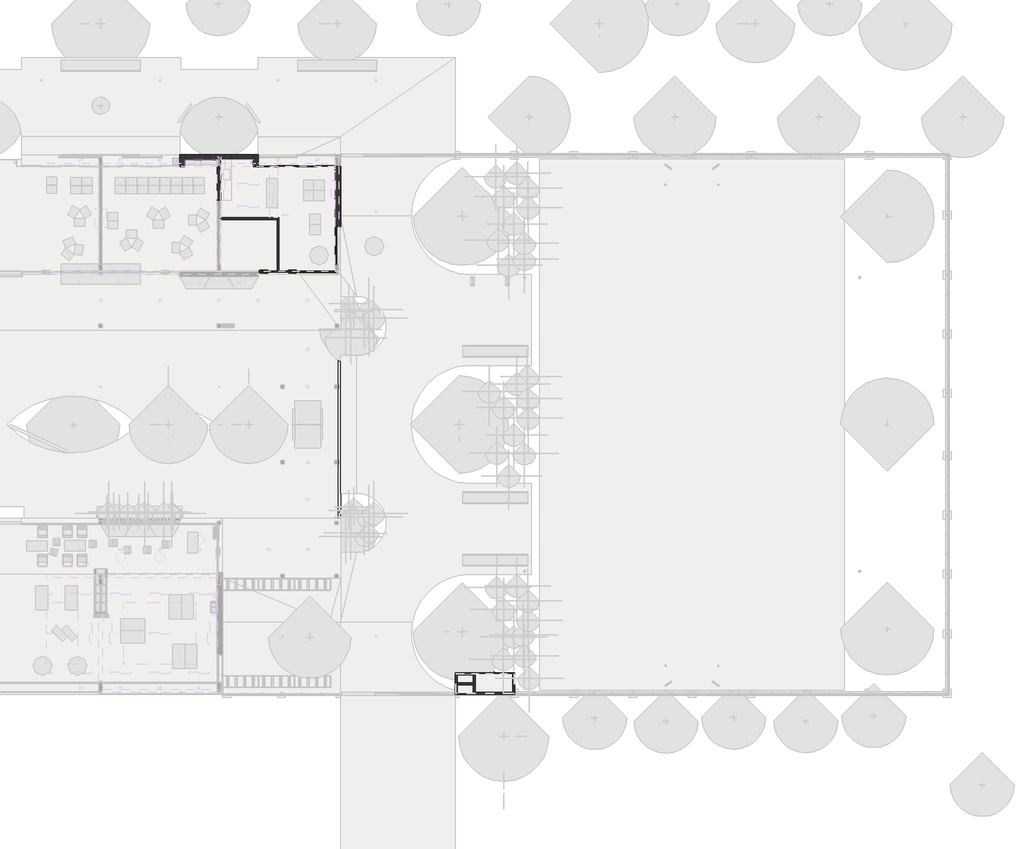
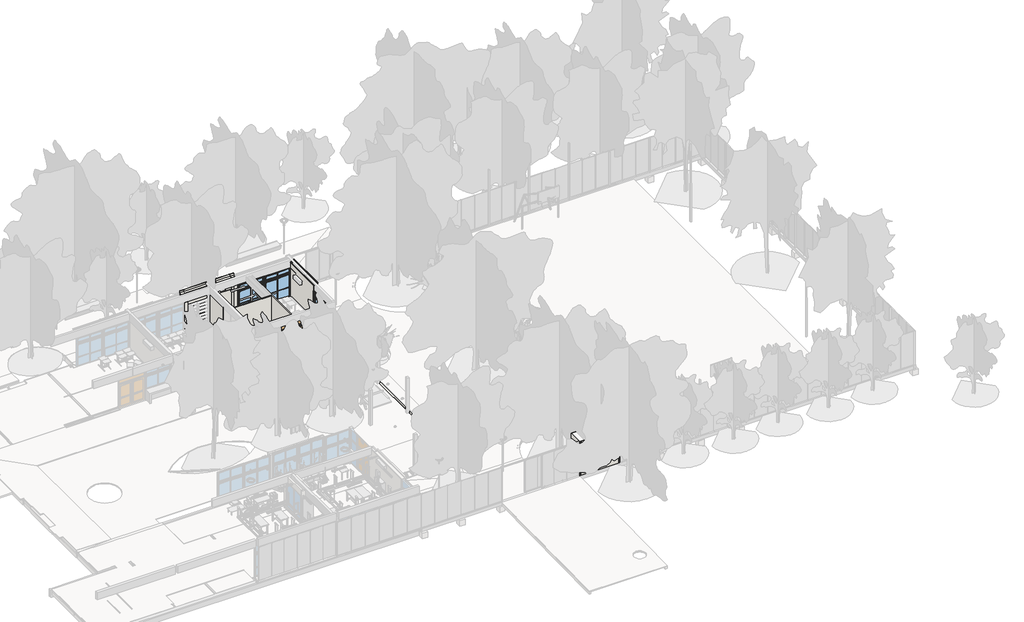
# One storey, part 6 of 22: 23 walls, 8 windows, 4 proxies, 2 doors.
"""IFC4 building model written with IfcOpenShell, lengths in millimetres."""

from ifc_helpers import new_model, si_unit, point, frame, frame_2d, origin, place, context, project, spatial, polyline, circle_curve, ellipse_curve, trimmed, segment, composite_curve, outline, extrude, faceted_brep, transform, mapped, element, save
from ifc_brep_helpers import plane_surface, cylinder_surface, revolved_surface, advanced_brep
from components import door_cf841cee, door_9383518e, window_d906ba14, window_8c95d47d, window_3a15e468, window_4325c9d2, window_8b68bda0, window_c2d00e38, window_77fab793, window_3585451b

model = new_model("IFC4")

# Units and contexts
model_context = context("Model", 3, world=origin())
ifc_project = project(units=[si_unit("LENGTHUNIT", "METRE", prefix="MILLI")], contexts=[model_context])

# Site, building, storey
site = spatial("IfcSite", under=ifc_project)
building = spatial("IfcBuilding", under=site)
storey = spatial("IfcBuildingStorey", under=building, Name="PLanta baja", Elevation=0.0)

# Proxies
placement = place(None, origin())
element("IfcBuildingElementProxy", 1, Name="23-TEL-JUNTA 10x10", ObjectType="23-TEL-JUNTA 10x10", at=placement, inside=storey, context=model_context, shape_type="SweptSolid", body=[
    extrude(outline(polyline([(37673.7173693, 31020.2304035), (37683.7173693, 31020.2304035), (37683.7173693, 27520.2304035), (37673.7173693, 27520.2304035), (37673.7173693, 31020.2304035)])), frame((0.0, 0.0, 3090.0), z_axis=(0.0, 0.0, 1.0), x_axis=(1.0, 0.0, 0.0)), (0.0, 0.0, 1.0), 10.0),
])
element("IfcBuildingElementProxy", 2, Name="23-TEL-JUNTA 10x10", ObjectType="23-TEL-JUNTA 10x10", at=placement, inside=storey, context=model_context, shape_type="SweptSolid", body=[
    extrude(outline(polyline([(32878.7173693, 31220.2288236), (32888.7173693, 31220.2288236), (32888.7173693, 31020.2272437), (32878.7173693, 31020.2272437), (32878.7173693, 31220.2288236)])), frame((0.0, 0.0, 2590.0), z_axis=(0.0, 0.0, 1.0), x_axis=(1.0, 0.0, 0.0)), (0.0, 0.0, 1.0), 10.0),
])
element("IfcBuildingElementProxy", 3, Name="23-TEL-JUNTA 10x10", ObjectType="23-TEL-JUNTA 10x10", at=placement, inside=storey, context=model_context, shape_type="SweptSolid", body=[
    extrude(outline(polyline([(32878.7173693, 31420.2304035), (32888.7173693, 31430.2304035), (32888.7173693, 31220.2288236), (32878.7173693, 31220.2288236), (32878.7173693, 31420.2304035)])), frame((0.0, 0.0, 3090.0), z_axis=(0.0, 0.0, 1.0), x_axis=(1.0, 0.0, 0.0)), (0.0, 0.0, 1.0), 10.0),
    extrude(outline(polyline([(30993.7173693, 31420.2304035), (30993.7173693, 31430.2304035), (31613.7173693, 31430.2304035), (31613.7173693, 31420.2304035), (30993.7173693, 31420.2304035)])), frame((0.0, 0.0, 3090.0), z_axis=(0.0, 0.0, 1.0), x_axis=(1.0, 0.0, 0.0)), (0.0, 0.0, 1.0), 10.0),
    extrude(outline(polyline([(28888.7173693, 31430.2304035), (28878.7173693, 31440.2304035), (30993.7173693, 31440.2304035), (30993.7173693, 31430.2304035), (28888.7173693, 31430.2304035)])), frame((0.0, 0.0, 3090.0), z_axis=(0.0, 0.0, 1.0), x_axis=(1.0, 0.0, 0.0)), (0.0, 0.0, 1.0), 10.0),
    extrude(outline(polyline([(28888.7173693, 31220.2304035), (28878.7173693, 31220.2304035), (28878.7173693, 31440.2304035), (28888.7173693, 31430.2304035), (28888.7173693, 31220.2304035)])), frame((0.0, 0.0, 3090.0), z_axis=(0.0, 0.0, 1.0), x_axis=(1.0, 0.0, 0.0)), (0.0, 0.0, 1.0), 10.0),
    extrude(outline(polyline([(31613.7173693, 31420.2304035), (31613.7173693, 31430.2304035), (32888.7173693, 31430.2304035), (32878.7173693, 31420.2304035), (31613.7173693, 31420.2304035)])), frame((0.0, 0.0, 3090.0), z_axis=(0.0, 0.0, 1.0), x_axis=(1.0, 0.0, 0.0)), (0.0, 0.0, 1.0), 10.0),
])
element("IfcBuildingElementProxy", 4, Name="23-TEL-JUNTA 10x10", ObjectType="23-TEL-JUNTA 10x10", at=placement, inside=storey, context=model_context, shape_type="SweptSolid", body=[
    extrude(outline(polyline([(28888.7173693, 31020.2272437), (28878.7173693, 31020.2272437), (28878.7173693, 31220.2304035), (28888.7173693, 31220.2304035), (28888.7173693, 31020.2272437)])), frame((0.0, 0.0, 2590.0), z_axis=(0.0, 0.0, 1.0), x_axis=(1.0, 0.0, 0.0)), (0.0, 0.0, 1.0), 10.0),
])

# Doors
door_shape = door_cf841cee(model_context)
element("IfcDoor", 5, ObjectType="A3 Puerta batiente exterior VF superior : A3.1 Puerta batiente simple-exterior 110X260", at=placement, inside=storey, context=model_context, shape_type="MappedRepresentation", body=[
    mapped(door_shape, transform((33738.7173693, 24887.2304035, 0.0), x_axis=(-1.0, 0.0, 0.0), y_axis=(0.0, -1.0, 0.0), z_axis=(0.0, 0.0, 1.0))),
])
door_2_shape = door_9383518e(model_context)
element("IfcDoor", 6, ObjectType="A3 Puerta batiente exterior VF superior : A3.1 Puerta batiente simple-exterior 110X260", at=placement, inside=storey, context=model_context, shape_type="MappedRepresentation", body=[
    mapped(door_2_shape, transform((34938.7173693, 24887.2304035, 0.0), x_axis=(1.0, 0.0, 0.0), y_axis=(0.0, 1.0, 0.0), z_axis=(0.0, 0.0, 1.0))),
])

# Walls
element("IfcWall", 7, ObjectType="TABI-INT/INT-M30b-20cm-PET", at=placement, inside=storey, context=model_context, shape_type="Brep", body=[
    faceted_brep([(30803.7173693, 29050.2304035, 2600.0), (30803.7173693, 31020.2304035, 2600.0), (30803.7173693, 31020.2304035, 0.0), (30803.7173693, 29050.2304035, 0.0), (31003.7173693, 31440.2304035, 900.0), (31003.7173693, 31440.2304035, 3100.0), (31003.7173693, 31220.2304035, 3100.0), (31003.7173693, 31220.2304035, 2600.0), (31003.7173693, 31020.2304035, 2600.0), (31003.7173693, 31020.2304035, 3100.0), (31003.7173693, 29050.2304035, 3100.0), (31003.7173693, 29050.2304035, 2103.3), (31003.7173693, 31419.731002, 2103.3), (31003.7173693, 31419.731002, 2100.0), (31003.7173693, 29050.2304035, 2100.0), (31003.7173693, 29050.2304035, 900.0), (30988.7173693, 29050.2304035, 0.0), (30988.7173693, 29050.2304035, 900.0), (30994.2173693, 29050.2304035, 2100.0), (30994.2173693, 29050.2304035, 2103.3), (30988.7173693, 29050.2304035, 3100.0), (30988.7173693, 29050.2304035, 2600.0), (30993.7173693, 31440.2304035, 3100.0), (30988.7173693, 31440.2304035, 3100.0), (30988.7173693, 31220.2304035, 3100.0), (30988.7173693, 31020.2304035, 3100.0), (30993.7173693, 31440.2304035, 900.0), (30988.7173693, 31440.2304035, 900.0), (30988.7173693, 31020.2304035, 2600.0), (30988.7173693, 31020.2304035, 900.0), (30988.7173693, 31020.2304035, 0.0), (30976.0173694, 31020.2304035, 2600.0), (30988.7173693, 31220.2304035, 2600.0), (30988.7173693, 31430.2304035, 900.0), (30994.2173693, 31419.731002, 2103.3), (30994.2173693, 31419.731002, 2100.0)], [[[0, 1, 2, 3]], [[4, 5, 6, 7, 8, 9, 10, 11, 12, 13, 14, 15]], [[3, 16, 17, 15, 14, 18, 19, 11, 10, 20, 21, 0]], [[5, 22, 23, 24, 6]], [[20, 10, 9, 25]], [[5, 4, 26, 27, 23, 22]], [[28, 29, 30, 2, 1, 31]], [[29, 28, 32, 24, 23, 27, 33]], [[28, 21, 20, 25]], [[1, 0, 21, 28, 31]], [[13, 12, 34, 35]], [[13, 35, 18, 14]], [[35, 34, 19, 18]], [[34, 12, 11, 19]], [[3, 2, 30, 16]], [[17, 16, 30, 29]], [[27, 26, 4, 15, 17, 29, 33]], [[8, 28, 25, 9]], [[28, 8, 7, 32]], [[32, 7, 6, 24]]]),
])
element("IfcWall", 8, ObjectType="TABI-INT/INT-M30-10cm-PET", at=placement, inside=storey, context=model_context, shape_type="Brep", body=[
    faceted_brep([(34288.7173693, 28040.2304035, 0.0), (34288.7173693, 27940.2304035, 0.0), (34288.7173693, 24921.8622631, 0.0), (34288.7173693, 24921.8622631, 3100.0), (34288.7173693, 27940.2304035, 3100.0), (34288.7173693, 28040.2304035, 3100.0), (34288.7173693, 28040.2304035, 50.0), (34388.7173693, 24921.8622631, 0.0), (34388.7173693, 28040.2304035, 0.0), (34388.7173693, 28040.2304035, 50.0), (34388.7173693, 28040.2304035, 3100.0), (34388.7173693, 24921.8622631, 3100.0), (34388.7173693, 24921.8622631, 50.0)], [[[0, 1, 2, 3, 4, 5, 6]], [[7, 8, 9, 10, 11, 12]], [[2, 1, 0, 8, 7]], [[3, 2, 7, 12, 11]], [[5, 4, 3, 11, 10]], [[8, 0, 6, 5, 10, 9]]]),
])
element("IfcWall", 9, ObjectType="TABI-INT/INT-M30-10cm-PET", at=placement, inside=storey, context=model_context, shape_type="Brep", body=[
    faceted_brep([(34288.7173693, 28040.2304035, 0.0), (31003.7173693, 28040.2304035, 0.0), (31003.7173693, 28040.2304035, 50.0), (31003.7173693, 28040.2304035, 2100.0), (31003.7173693, 28040.2304035, 2103.3), (31003.7173693, 28040.2304035, 3100.0), (34288.7173693, 28040.2304035, 3100.0), (34288.7173693, 28040.2304035, 50.0), (31003.7173693, 27940.2304035, 0.0), (34288.7173693, 27940.2304035, 0.0), (34288.7173693, 27940.2304035, 3100.0), (31003.7173693, 27940.2304035, 3100.0)], [[[0, 1, 2, 3, 4, 5, 6, 7]], [[8, 9, 10, 11]], [[1, 0, 9, 8]], [[6, 5, 11, 10]], [[10, 9, 0, 7, 6]], [[1, 8, 11, 5, 4, 3, 2]]]),
])
element("IfcWall", 10, ObjectType="MURO-EXT/NICHOS-M1-11cm-PET", at=placement, inside=storey, context=model_context, shape_type="Brep", body=[
    faceted_brep([(44798.7173693, 210.2304035, -50.0), (44798.7173693, 310.2304035, -50.0), (44798.7173693, 1468.5637368, -50.0), (44798.7173693, 1468.5637368, 1120.0), (44798.7173693, 1358.5637368, 1120.0), (44798.7173693, 1358.5637368, 1970.0), (44798.7173693, 1468.5637368, 1970.0), (44798.7173693, 1468.5637368, 3050.0), (44798.7173693, 1448.5637368, 3050.0), (44798.7173693, 1448.5637368, 3030.0), (44798.7173693, 1408.5637368, 3030.0), (44798.7173693, 1408.5637368, 2930.0), (44798.7173693, 1358.5637368, 2930.0), (44798.7173693, 889.3970702, 2930.0), (44798.7173693, 779.3970702, 2930.0), (44798.7173693, 320.2304035, 2930.0), (44798.7173693, 270.2304035, 2930.0), (44798.7173693, 270.2304035, 3030.0), (44798.7173693, 230.2304035, 3030.0), (44798.7173693, 230.2304035, 3050.0), (44798.7173693, 210.2304035, 3050.0), (44798.7173693, 210.2304035, 1880.0), (44798.7173693, 320.2304035, 1880.0), (44798.7173693, 320.2304035, 1030.0), (44798.7173693, 779.3970702, 1030.0), (44798.7173693, 834.3970702, 1030.0), (44798.7173693, 834.3970702, 930.0), (44798.7173693, 779.3970702, 930.0), (44798.7173693, 320.2304035, 930.0), (44798.7173693, 320.2304035, 305.0), (44798.7173693, 210.2304035, 305.0), (44798.7173693, 244.2304035, 930.0), (44798.7173693, 244.2304035, 1030.0), (44798.7173693, 210.2304035, 1030.0), (44798.7173693, 210.2304035, 930.0), (44688.7173693, 1468.5637368, -50.0), (44688.7173693, 210.2304035, -50.0), (44688.7173693, 210.2304035, 3050.0), (44688.7173693, 1468.5637368, 3050.0), (44708.7173693, 230.2304035, 3050.0), (44708.7173693, 1448.5637368, 3050.0), (44788.7173693, 1468.5637368, 1970.0), (44788.7173693, 1468.5637368, 1120.0), (44788.7173693, 210.2304035, 305.0), (44788.7173693, 210.2304035, 930.0), (44788.7173693, 210.2304035, 1030.0), (44788.7173693, 210.2304035, 1880.0), (44743.7173693, 834.3970702, 930.0), (44743.7173693, 244.2304035, 930.0), (44788.7173693, 244.2304035, 930.0), (44788.7173693, 320.2304035, 930.0), (44743.7173693, 244.2304035, 1030.0), (44743.7173693, 834.3970702, 1030.0), (44788.7173693, 320.2304035, 1030.0), (44788.7173693, 244.2304035, 1030.0), (44748.7173693, 1408.5637368, 2930.0), (44748.7173693, 270.2304035, 2930.0), (44748.7173693, 270.2304035, 3030.0), (44748.7173693, 1408.5637368, 3030.0), (44708.7173693, 1448.5637368, 3030.0), (44708.7173693, 230.2304035, 3030.0), (44788.7173693, 320.2304035, 305.0), (44788.7173693, 320.2304035, 1880.0), (44788.7173693, 1358.5637368, 1120.0), (44788.7173693, 1358.5637368, 1970.0)], [[[0, 1, 2, 3, 4, 5, 6, 7, 8, 9, 10, 11, 12, 13, 14, 15, 16, 17, 18, 19, 20, 21, 22, 23, 24, 25, 26, 27, 28, 29, 30]], [[31, 32, 33, 34]], [[35, 36, 37, 38]], [[2, 1, 0, 36, 35]], [[38, 37, 20, 19, 39, 40, 8, 7]], [[2, 35, 38, 7, 6, 41, 42, 3]], [[20, 37, 36, 0, 30, 43, 44, 34, 33, 45, 46, 21]], [[47, 48, 49, 50, 28, 27, 26]], [[51, 52, 25, 24, 23, 53, 54]], [[48, 47, 52, 51]], [[52, 47, 26, 25]], [[48, 51, 54, 32, 31, 49]], [[55, 56, 16, 15, 14, 13, 12, 11]], [[56, 57, 17, 16]], [[56, 55, 58, 57]], [[58, 55, 11, 10]], [[59, 60, 18, 17, 57, 58, 10, 9]], [[18, 60, 39, 19]], [[60, 59, 40, 39]], [[59, 9, 8, 40]], [[50, 61, 29, 28]], [[34, 44, 49, 31]], [[61, 50, 49, 44, 43]], [[61, 43, 30, 29]], [[62, 53, 23, 22]], [[46, 62, 22, 21]], [[53, 62, 46, 45, 54]], [[45, 33, 32, 54]], [[63, 64, 5, 4]], [[64, 63, 42, 41]], [[64, 41, 6, 5]], [[42, 63, 4, 3]]]),
])
element("IfcWall", 11, ObjectType="MURO-EXT/NICHOS-M1-11cm-PET", at=placement, inside=storey, context=model_context, shape_type="Brep", body=[
    faceted_brep([(48138.7173693, 1358.5637368, 3050.0), (48028.7173693, 1358.5637368, 3050.0), (44798.7173693, 1358.5637368, 3050.0), (44798.7173693, 1358.5637368, 3030.0), (48078.7173693, 1358.5637368, 3030.0), (48078.7173693, 1358.5637368, 2930.0), (44798.7173693, 1358.5637368, 2930.0), (44798.7173693, 1358.5637368, 1970.0), (45738.7173693, 1358.5637368, 1970.0), (45738.7173693, 1358.5637368, 1120.0), (44798.7173693, 1358.5637368, 1120.0), (44798.7173693, 1358.5637368, 70.0), (45728.7173693, 1358.5637368, 70.0), (45838.7173693, 1358.5637368, 70.0), (45838.7173693, 1358.5637368, 1970.0), (48038.7173693, 1358.5637368, 1970.0), (48038.7173693, 1358.5637368, 70.0), (48058.7173693, 1358.5637368, 70.0), (48058.7173693, 1358.5637368, -53.9365478), (48138.7173693, 1358.5637368, -53.9365478), (48138.7173693, 1358.5637368, -50.0), (44798.7173693, 1468.5637368, 3050.0), (48138.7173693, 1468.5637368, 3050.0), (48138.7173693, 1468.5637368, -53.9365478), (48058.7173693, 1468.5637368, -53.9365478), (48058.7173693, 1468.5637368, 70.0), (48038.7173693, 1468.5637368, 70.0), (48038.7173693, 1468.5637368, 1970.0), (45838.7173693, 1468.5637368, 1970.0), (45838.7173693, 1468.5637368, 70.0), (45858.7173693, 1468.5637368, 70.0), (45858.7173693, 1468.5637368, -53.9365478), (44798.7173693, 1468.5637368, -53.9365478), (44798.7173693, 1468.5637368, -50.0), (44798.7173693, 1468.5637368, 1120.0), (45738.7173693, 1468.5637368, 1120.0), (45738.7173693, 1468.5637368, 1970.0), (44798.7173693, 1468.5637368, 1970.0), (48058.7173693, 1368.5637368, -53.9365478), (45858.7173693, 1368.5637368, -53.9365478), (44798.7173693, 1368.5637368, -53.9365478), (44798.7173693, 1448.5637368, 3050.0), (44798.7173693, 1408.5637368, 2930.0), (44798.7173693, 1408.5637368, 3030.0), (44798.7173693, 1368.5637368, 70.0), (45838.7173693, 1368.5637368, 70.0), (45858.7173693, 1368.5637368, 70.0), (48078.7173693, 1408.5637368, 2930.0), (48078.7173693, 1408.5637368, 3030.0), (48058.7173693, 1368.5637368, 70.0)], [[[0, 1, 2, 3, 4, 5, 6, 7, 8, 9, 10, 11, 12, 13, 14, 15, 16, 17, 18, 19, 20]], [[21, 22, 23, 24, 25, 26, 27, 28, 29, 30, 31, 32, 33, 34, 35, 36, 37]], [[23, 19, 18, 38, 24]], [[32, 31, 39, 40]], [[2, 1, 0, 22, 21, 41]], [[2, 41, 21, 37, 7, 6, 42, 43, 3]], [[34, 33, 32, 40, 44, 11, 10]], [[0, 20, 19, 23, 22]], [[28, 14, 13, 45, 29]], [[14, 28, 27, 15]], [[15, 27, 26, 16]], [[30, 29, 45, 46]], [[36, 8, 7, 37]], [[8, 36, 35, 9]], [[9, 35, 34, 10]], [[47, 42, 6, 5]], [[48, 4, 3, 43]], [[48, 47, 5, 4]], [[47, 48, 43, 42]], [[44, 45, 13, 12, 11]], [[25, 49, 17, 16, 26]], [[17, 49, 38, 18]], [[45, 44, 40, 39, 46]], [[46, 39, 31, 30]], [[49, 25, 24, 38]]]),
])
element("IfcWall", 12, ObjectType="MURO-EXT/NICHOS-M1-11cm-PET", at=placement, inside=storey, context=model_context, shape_type="Brep", body=[
    faceted_brep([(48028.7173693, 1358.5637368, -50.0), (48028.7173693, 310.2304035, -50.0), (48028.7173693, 210.2304035, -50.0), (48028.7173693, 210.2304035, 3050.0), (48028.7173693, 230.2304035, 3050.0), (48028.7173693, 230.2304035, 3030.0), (48028.7173693, 270.2304035, 3030.0), (48028.7173693, 270.2304035, 2930.0), (48028.7173693, 320.2304035, 2930.0), (48028.7173693, 1358.5637368, 2930.0), (48138.7173693, 210.2304035, -50.0), (48138.7173693, 1358.5637368, -50.0), (48138.7173693, 1358.5637368, 3030.0), (48138.7173693, 230.2304035, 3030.0), (48138.7173693, 230.2304035, 3050.0), (48138.7173693, 210.2304035, 3050.0), (48078.7173693, 1358.5637368, 2930.0), (48078.7173693, 1358.5637368, 3030.0), (48078.7173693, 270.2304035, 2930.0), (48078.7173693, 270.2304035, 3030.0)], [[[0, 1, 2, 3, 4, 5, 6, 7, 8, 9]], [[10, 11, 12, 13, 14, 15]], [[2, 1, 0, 11, 10]], [[3, 15, 14, 4]], [[11, 0, 9, 16, 17, 12]], [[3, 2, 10, 15]], [[7, 18, 16, 9, 8]], [[18, 19, 17, 16]], [[19, 18, 7, 6]], [[5, 13, 12, 17, 19, 6]], [[13, 5, 4, 14]]]),
])
element("IfcWall", 13, ObjectType="MURO-EXT/NICHOS-M1-11cm-PET", at=placement, inside=storey, context=model_context, shape_type="Brep", body=[
    faceted_brep([(45738.7173693, 320.2304035, 930.0), (45783.7173693, 320.2304035, 930.0), (45783.7173693, 320.2304035, 1030.0), (45738.7173693, 320.2304035, 1030.0), (45738.7173693, 320.2304035, 1880.0), (44798.7173693, 320.2304035, 1880.0), (44798.7173693, 320.2304035, 2930.0), (48028.7173693, 320.2304035, 2930.0), (48028.7173693, 320.2304035, 70.0), (45838.7173693, 320.2304035, 70.0), (45728.7173693, 320.2304035, 70.0), (44798.7173693, 320.2304035, 70.0), (44798.7173693, 320.2304035, 305.0), (45738.7173693, 320.2304035, 305.0), (44798.7173693, 210.2304035, -50.0), (48028.7173693, 210.2304035, -50.0), (48028.7173693, 210.2304035, 3050.0), (44798.7173693, 210.2304035, 3050.0), (44798.7173693, 210.2304035, 1880.0), (45738.7173693, 210.2304035, 1880.0), (45738.7173693, 210.2304035, 1030.0), (45738.7173693, 210.2304035, 930.0), (45738.7173693, 210.2304035, 305.0), (44798.7173693, 210.2304035, 305.0), (44798.7173693, 310.2304035, -50.0), (48028.7173693, 310.2304035, -50.0), (48028.7173693, 230.2304035, 3050.0), (44798.7173693, 230.2304035, 3050.0), (48028.7173693, 310.2304035, 70.0), (48028.7173693, 270.2304035, 2930.0), (48028.7173693, 270.2304035, 3030.0), (48028.7173693, 230.2304035, 3030.0), (44798.7173693, 310.2304035, 70.0), (44798.7173693, 230.2304035, 3030.0), (44798.7173693, 270.2304035, 3030.0), (44798.7173693, 270.2304035, 2930.0), (45738.7173693, 244.2304035, 930.0), (45783.7173693, 244.2304035, 930.0), (45783.7173693, 244.2304035, 1030.0), (45738.7173693, 244.2304035, 1030.0)], [[[0, 1, 2, 3, 4, 5, 6, 7, 8, 9, 10, 11, 12, 13]], [[14, 15, 16, 17, 18, 19, 20, 21, 22, 23]], [[15, 14, 24, 25]], [[17, 16, 26, 27]], [[16, 15, 25, 28, 8, 7, 29, 30, 31, 26]], [[14, 23, 12, 11, 32, 24]], [[18, 17, 27, 33, 34, 35, 6, 5]], [[36, 37, 1, 0]], [[38, 39, 3, 2]], [[37, 38, 2, 1]], [[37, 36, 39, 38]], [[39, 36, 0, 13, 22, 21, 20, 19, 4, 3]], [[22, 13, 12, 23]], [[4, 19, 18, 5]], [[35, 29, 7, 6]], [[29, 35, 34, 30]], [[28, 32, 11, 10, 9, 8]], [[32, 28, 25, 24]], [[33, 31, 30, 34]], [[31, 33, 27, 26]]]),
])
element("IfcWall", 14, ObjectType="MURO-EXT/NICHOS-M1-11cm-PET", at=placement, inside=storey, context=model_context, shape_type="Brep", body=[
    faceted_brep([(45728.7173693, 320.2304035, 2950.0), (45728.7173693, 1358.5637368, 2950.0), (45728.7173693, 1358.5637368, 70.0), (45728.7173693, 889.3970702, 70.0), (45728.7173693, 779.3970702, 70.0), (45728.7173693, 320.2304035, 70.0), (45728.7173693, 320.2304035, 930.0), (45728.7173693, 779.3970702, 930.0), (45728.7173693, 834.3970702, 930.0), (45728.7173693, 834.3970702, 1030.0), (45728.7173693, 779.3970702, 1030.0), (45728.7173693, 320.2304035, 1030.0), (45838.7173693, 1358.5637368, 2950.0), (45838.7173693, 320.2304035, 2950.0), (45838.7173693, 320.2304035, 70.0), (45838.7173693, 1358.5637368, 70.0), (45838.7173693, 1358.5637368, 1970.0), (45738.7173693, 320.2304035, 1030.0), (45783.7173693, 320.2304035, 1030.0), (45783.7173693, 320.2304035, 930.0), (45738.7173693, 320.2304035, 930.0), (45783.7173693, 834.3970702, 930.0), (45783.7173693, 834.3970702, 1030.0)], [[[0, 1, 2, 3, 4, 5, 6, 7, 8, 9, 10, 11]], [[12, 13, 14, 15, 16]], [[1, 0, 13, 12]], [[1, 12, 16, 15, 2]], [[13, 0, 11, 17, 18, 19, 20, 6, 5, 14]], [[21, 8, 7, 6, 20, 19]], [[22, 18, 17, 11, 10, 9]], [[22, 21, 19, 18]], [[21, 22, 9, 8]], [[5, 4, 3, 2, 15, 14]]]),
])
element("IfcWall", 15, ObjectType="MURO-EXT/NICHOS-M1-11cm-PET", at=placement, inside=storey, context=model_context, shape_type="SweptSolid", body=[
    extrude(outline(polyline([(779.3970702, 2930.0), (889.3970702, 2930.0), (889.3970702, 70.0), (779.3970702, 70.0), (779.3970702, 930.0), (834.3970702, 930.0), (834.3970702, 1030.0), (779.3970702, 1030.0), (779.3970702, 2930.0)])), frame((44798.7173693, 0.0, 0.0), z_axis=(1.0, 0.0, 0.0), x_axis=(0.0, 1.0, 0.0)), (0.0, 0.0, 1.0), 930.0),
])
element("IfcWall", 16, ObjectType="MURO-INT/INT-M22b-11.5cm-hceram210cm-PET", at=placement, inside=storey, context=model_context, shape_type="Brep", body=[
    faceted_brep([(31494.7173693, 31420.2304035, -50.0), (31494.7173693, 31130.2304035, -50.0), (31494.7173693, 31020.2304035, -50.0), (31494.7173693, 31020.2304035, 828.0), (31494.7173693, 31420.2304035, 828.0), (31609.7173693, 31420.2304035, -50.0), (31609.7173693, 31420.2304035, 828.0), (31609.7173693, 31020.2304035, 828.0), (31609.7173693, 31020.2304035, -50.0)], [[[0, 1, 2, 3, 4]], [[5, 6, 7, 8]], [[2, 1, 0, 5, 8]], [[4, 3, 7, 6]], [[3, 2, 8, 7]], [[0, 4, 6, 5]]]),
])
element("IfcWall", 17, ObjectType="MURO-EXT/INT-M1c-31cm-hceram210cm-PET", at=placement, inside=storey, context=model_context, shape_type="Brep", body=[
    faceted_brep([(31613.7173693, 31420.2304035, 3090.0), (30993.7173693, 31420.2304035, 3090.0), (30993.7173693, 31420.2304035, 900.0), (31613.7173693, 31420.2304035, 900.0), (31613.7173693, 31420.2304035, 2100.0), (30994.2964246, 31420.2304035, 2100.0), (30994.2964246, 31420.2304035, 2103.3), (31613.7173693, 31420.2304035, 2103.3), (31613.7173693, 31730.2304035, -50.0), (30993.7173693, 31730.2304035, -50.0), (30993.7173693, 31730.2304035, 0.0), (31493.7173693, 31730.2304035, 0.0), (31493.7173693, 31730.2304035, 750.0), (30993.7173693, 31730.2304035, 750.0), (30993.7173693, 31730.2304035, 3260.0), (31613.7173693, 31730.2304035, 3260.0), (31613.7173693, 31680.2304035, 3260.0), (31613.7173693, 31680.2304035, 3100.0), (31613.7173693, 31430.2304035, 3100.0), (31613.7173693, 31430.2304035, 3090.0), (31613.7173693, 31429.7304035, 2103.3), (31613.7173693, 31429.7304035, 2100.0), (31613.7173693, 31430.2304035, 900.0), (31613.7173693, 31430.2304035, -50.0), (30993.7173693, 31680.2304035, 3260.0), (30993.7173693, 31430.2304035, 750.0), (30993.7173693, 31430.2304035, 900.0), (30993.7173693, 31430.2304035, 3090.0), (30993.7173693, 31430.2304035, 3100.0), (30993.7173693, 31440.2304035, 3100.0), (30993.7173693, 31680.2304035, 3100.0), (30993.7173693, 31630.2304035, -50.0), (30993.7173693, 31630.2304035, 0.0), (31493.7173693, 31630.2304035, 0.0), (31493.7173693, 31430.2304035, 0.0), (31493.7173693, 31430.2304035, 750.0), (30994.2964246, 31429.7304035, 2100.0), (30994.2964246, 31429.7304035, 2103.3), (31494.7173693, 31630.2304035, 0.0), (31494.7173693, 31430.2304035, 0.0), (31494.7173693, 31630.2304035, -50.0), (31494.7173693, 31430.2304035, -50.0)], [[[0, 1, 2, 3, 4, 5, 6, 7]], [[8, 9, 10, 11, 12, 13, 14, 15]], [[8, 15, 16, 17, 18, 19, 0, 7, 20, 21, 4, 3, 22, 23]], [[15, 14, 24, 16]], [[13, 25, 26, 2, 1, 27, 28, 29, 30, 24, 14]], [[10, 9, 31, 32]], [[12, 11, 33, 34, 35]], [[11, 10, 32, 33]], [[13, 12, 35, 25]], [[28, 27, 19, 18]], [[1, 0, 19, 27]], [[6, 5, 36, 37]], [[36, 5, 4, 21]], [[6, 37, 20, 7]], [[37, 36, 21, 20]], [[33, 38, 39, 34]], [[40, 38, 33, 32, 31]], [[38, 40, 41, 39]], [[9, 8, 23, 41, 40, 31]], [[23, 22, 26, 25, 35, 34, 39, 41]], [[3, 2, 26, 22]], [[17, 30, 29, 28, 18]], [[30, 17, 16, 24]]]),
])
element("IfcWall", 18, ObjectType="MURO-EXT/INT-M1c-31cm-hceram210cm-PET", at=placement, inside=storey, context=model_context, shape_type="Brep", body=[
    faceted_brep([(32878.7173693, 31730.2304035, 3260.0), (32878.7173693, 31730.2304035, -50.0), (32878.7173693, 31420.2304035, -50.0), (32878.7173693, 31020.2272437, -50.0), (32878.7173693, 31020.2272437, 2590.0), (32878.7173693, 31220.2288236, 2590.0), (32878.7173693, 31220.2304035, 3090.0), (32878.7173693, 31420.2304035, 3090.0), (32878.7173693, 31430.2304035, 3090.0), (32878.7173693, 31430.2304035, 3100.0), (32878.7173693, 31680.2304035, 3100.0), (32878.7173693, 31680.2304035, 3260.0), (33188.7173693, 31020.2272437, -50.0), (33188.7173693, 31730.2304035, -50.0), (33188.7173693, 31730.2304035, 3100.0), (33188.7173693, 31730.2304035, 3260.0), (33188.7173693, 31680.2304035, 3260.0), (33188.7173693, 31680.2304035, 3100.0), (33188.7173693, 31220.2304035, 3100.0), (33188.7173693, 31220.2304035, 2600.0), (33188.7173693, 31020.2272437, 2600.0), (32888.7173693, 31020.2272437, -50.0), (32888.7173693, 31020.2272437, 2600.0), (32888.7173693, 31020.2272437, 2590.0), (32888.7173693, 31730.2304035, -50.0), (32888.7173693, 31220.2288236, 2590.0), (32888.7173693, 31220.2288236, 2600.0), (32888.7173693, 31220.2288236, 3100.0), (32888.7173693, 31220.2288236, 3090.0), (32888.7173693, 31430.2304035, 3090.0), (32888.7173693, 31430.2304035, 3100.0)], [[[0, 1, 2, 3, 4, 5, 6, 7, 8, 9, 10, 11]], [[12, 13, 14, 15, 16, 17, 18, 19, 20]], [[4, 3, 21, 12, 20, 22, 23]], [[15, 0, 11, 16]], [[1, 0, 15, 14, 13, 24]], [[25, 26, 19, 18, 27, 28, 6, 5]], [[26, 25, 23, 22]], [[25, 5, 4, 23]], [[29, 30, 9, 8]], [[28, 29, 8, 7, 6]], [[30, 29, 28, 27]], [[13, 12, 21, 24]], [[3, 2, 1, 24, 21]], [[19, 26, 22, 20]], [[17, 10, 9, 30, 27, 18]], [[10, 17, 16, 11]]]),
])
element("IfcWall", 19, ObjectType="CORD-C2-Cordoneta adoquines-15x20cm-PET", at=placement, inside=storey, context=model_context, shape_type="AdvancedBrep", body=[
    advanced_brep(
    [(31986.3925052, 15006.4028697, -300.0), (31986.3925361, 16934.0579574, -300.0), (31904.0014058, 17059.4058949, -300.0), (31904.001373, 14881.0549335, -300.0), (31986.3925052, 15006.4028697, -96.4999484), (33763.7173693, 15970.2304035, -90.0), (31986.3925361, 16934.0579574, -96.8768163), (31904.0014058, 17059.4058949, -97.7711617), (33913.7173693, 15970.2304035, -90.0), (31904.001373, 14881.0549335, -97.3452813)],
    [
        (0, 1, circle_curve(frame((32613.7173693, 15970.2304035, -300.0), z_axis=(0.0, 0.0, 1.0), x_axis=(1.0, 0.0, 0.0)), 1150.0)),
        (1, 2),
        (2, 3, circle_curve(frame((32613.7173693, 15970.2304035, -300.0), z_axis=(0.0, 0.0, -1.0), x_axis=(1.0, 0.0, 0.0)), 1300.0)),
        (3, 0),
        (0, 4),
        (4, 5, ellipse_curve(frame((32613.7173693, 15970.2304035, -90.0), z_axis=(0.0, -0.006743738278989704, 0.9999772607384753), x_axis=(0.0, -0.9999772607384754, -0.0067437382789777)), 1150.0261507, 1150.0)),
        (5, 6, ellipse_curve(frame((32613.7173693, 15970.2304035, -90.0), z_axis=(0.0, 0.007134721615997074, 0.9999745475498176), x_axis=(0.0, 0.9999745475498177, -0.007134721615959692)), 1150.0292711, 1150.0)),
        (6, 1),
        (2, 7),
        (7, 8, ellipse_curve(frame((32613.7173693, 15970.2304035, -90.0), z_axis=(0.0, -0.007134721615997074, -0.9999745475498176), x_axis=(0.0, -0.9999745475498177, 0.007134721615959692)), 1300.033089, 1300.0)),
        (8, 9, ellipse_curve(frame((32613.7173693, 15970.2304035, -90.0), z_axis=(0.0, 0.006743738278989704, -0.9999772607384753), x_axis=(0.0, 0.9999772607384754, 0.0067437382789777)), 1300.0295617, 1300.0)),
        (9, 3),
        (6, 7),
        (9, 4),
        (8, 5),
    ],
    [
        plane_surface(frame((33763.7173693, 15970.2304035, -300.0), z_axis=(0.0, 0.0, -1.0), x_axis=(0.0, 1.0, 0.0))),
        revolved_surface(polyline([(33763.7173693, 15970.2304035, -300.0), (33763.7173693, 15970.2304035, -81.79486130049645)]), (32613.7173693, 15970.2304035, -300.0), (0.0, 0.0, -1.0)),
        cylinder_surface(frame((32613.7173693, 15970.2304035, -300.0), z_axis=(0.0, 0.0, 1.0), x_axis=(1.0, 0.0, 0.0)), 1300.0),
        plane_surface(frame((31904.0014058, 17059.4058949, 0.0), z_axis=(-0.8356454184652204, -0.5492692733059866, 0.0), x_axis=(0.5492692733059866, -0.8356454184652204, 0.0))),
        plane_surface(frame((31986.3925052, 15006.4028697, 0.0), z_axis=(-0.8356454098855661, 0.5492692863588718, 0.0), x_axis=(-0.5492692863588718, -0.8356454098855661, 0.0))),
        plane_surface(frame((33101.3107875, 15029.8190875, -96.342032), z_axis=(0.0, -0.006743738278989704, 0.9999772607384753), x_axis=(-1.0, 0.0, 0.0))),
        plane_surface(frame((33100.8583511, 16904.6042084, -96.6666667), z_axis=(0.0, 0.007134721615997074, 0.9999745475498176), x_axis=(-0.2369141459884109, 0.9715058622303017, -0.006931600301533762))),
    ],
    [
        (0, [[1, 2, 3, 4]]),
        (1, [[-1, 5, 6, 7, 8]]),
        (2, [[-3, 9, 10, 11, 12]]),
        (3, [[-2, -8, 13, -9]]),
        (4, [[-4, -12, 14, -5]]),
        (5, [[15, -6, -14, -11]]),
        (6, [[-15, -10, -13, -7]]),
    ],
),
])
element("IfcWall", 20, ObjectType="CORD-C2-Cordoneta adoquines-15x20cm-PET", at=placement, inside=storey, context=model_context, shape_type="SweptSolid", body=[
    extrude(outline(composite_curve([segment(polyline([(35368.9133197, 3590.2304035), (35218.9133197, 3590.2304035)]), True, "CONTINUOUS"), segment(trimmed(circle_curve(frame_2d((36168.9133197, 3590.2304035)), 950.0), [point((35218.9133197, 3590.2304035))], [point((37118.9133197, 3590.2304035))], False, "CARTESIAN"), True, "CONTINUOUS"), segment(polyline([(37118.9133197, 3590.2304035), (36968.9133197, 3590.2304035)]), True, "CONTINUOUS"), segment(trimmed(circle_curve(frame_2d((36168.9133197, 3590.2304035)), 800.0), [point((36968.9133197, 3590.2304035))], [point((35368.9133197, 3590.2304035))], True, "CARTESIAN"), True, "CONTINUOUS")], self_intersect=False)), frame((0.0, 0.0, -300.0), z_axis=(0.0, 0.0, 1.0), x_axis=(1.0, 0.0, 0.0)), (0.0, 0.0, 1.0), 210.0),
])
element("IfcWall", 21, ObjectType="CORD-C2-Cordoneta adoquines-15x20cm-PET", at=placement, inside=storey, context=model_context, shape_type="AdvancedBrep", body=[
    advanced_brep(
    [(36968.9133197, 3590.2304035, -90.0), (35368.9133197, 3590.2304035, -90.0), (35218.9133197, 3590.2304035, -90.0), (37118.9133197, 3590.2304035, -90.0), (35368.9133197, 3590.2304035, -300.0), (36968.9133197, 3590.2304035, -300.0), (37118.9133197, 3590.2304035, -300.0), (35218.9133197, 3590.2304035, -300.0), (35218.9133197, 3590.2304035, -140.0), (37118.9133197, 3590.2304035, -140.0)],
    [
        (0, 1, circle_curve(frame((36168.9133197, 3590.2304035, -90.0), z_axis=(0.0, 0.0, -1.0), x_axis=(1.0, 0.0, 0.0)), 800.0)),
        (1, 2),
        (2, 3, circle_curve(frame((36168.9133197, 3590.2304035, -90.0), z_axis=(0.0, 0.0, 1.0), x_axis=(1.0, 0.0, 0.0)), 950.0)),
        (3, 0),
        (4, 5, circle_curve(frame((36168.9133197, 3590.2304035, -300.0), z_axis=(0.0, 0.0, 1.0), x_axis=(1.0, 0.0, 0.0)), 800.0)),
        (5, 6),
        (6, 7, circle_curve(frame((36168.9133197, 3590.2304035, -300.0), z_axis=(0.0, 0.0, -1.0), x_axis=(1.0, 0.0, 0.0)), 950.0)),
        (7, 4),
        (0, 5),
        (4, 1),
        (7, 8),
        (8, 2),
        (6, 9),
        (9, 3),
    ],
    [
        plane_surface(frame((36968.9133197, 3590.2304035, -90.0), z_axis=(0.0, 0.0, 1.0), x_axis=(0.0, -1.0, 0.0))),
        plane_surface(frame((36968.9133197, 3590.2304035, -300.0), z_axis=(0.0, 0.0, -1.0), x_axis=(0.0, 1.0, 0.0))),
        revolved_surface(polyline([(36968.9133197, 3590.2304035, -300.0), (36968.9133197, 3590.2304035, -90.0)]), (36168.9133197, 3590.2304035, -300.0), (0.0, 0.0, -1.0)),
        plane_surface(frame((35368.9133197, 3590.2304035, -90.0), z_axis=(0.0, 1.0, 0.0), x_axis=(0.0, 0.0, -1.0))),
        cylinder_surface(frame((36168.9133197, 3590.2304035, -300.0), z_axis=(0.0, 0.0, 1.0), x_axis=(1.0, 0.0, 0.0)), 950.0),
        plane_surface(frame((37118.9133197, 3590.2304035, -90.0), z_axis=(0.0, 1.0, 0.0), x_axis=(0.0, 0.0, -1.0))),
    ],
    [
        (0, [[1, 2, 3, 4]]),
        (1, [[5, 6, 7, 8]]),
        (2, [[-1, 9, -5, 10]]),
        (3, [[-2, -10, -8, 11, 12]]),
        (4, [[-3, -12, -11, -7, 13, 14]]),
        (5, [[-4, -14, -13, -6, -9]]),
    ],
),
])
element("IfcWall", 22, ObjectType="CORD-C1-Cordoneta hormigón armado-15x20cm-PET", at=placement, inside=storey, context=model_context, shape_type="Brep", body=[
    faceted_brep([(49597.2173693, 31469.0534459, -360.0), (49597.2173693, 479.0534459, -360.0), (49597.2173693, 479.0534459, -160.0), (49597.2173693, 31469.0534459, -160.0), (49747.2173693, 31469.0534459, -360.0), (49747.2173693, 31469.0534459, -160.0), (49747.2173693, 31319.0534459, -160.0), (49747.2173693, 629.0534459, -160.0), (49747.2173693, 479.0534459, -160.0), (49747.2173693, 479.0534459, -360.0), (49747.2173693, 629.0534459, -360.0), (49747.2173693, 31319.0534459, -360.0)], [[[0, 1, 2, 3]], [[4, 5, 6, 7, 8, 9, 10, 11]], [[1, 0, 4, 11, 10, 9]], [[3, 2, 8, 7, 6, 5]], [[2, 1, 9, 8]], [[0, 3, 5, 4]]]),
])
element("IfcWall", 23, ObjectType="CORD-C1-Cordoneta hormigón armado-15x20cm-PET", at=placement, inside=storey, context=model_context, shape_type="Brep", body=[
    faceted_brep([(67387.2173693, 629.0534459, -360.0), (67237.2173693, 629.0534459, -360.0), (49747.2173693, 629.0534459, -360.0), (49747.2173693, 629.0534459, -310.0), (49747.2173693, 629.0534459, -160.0), (67237.2173693, 629.0534459, -160.0), (67387.2173693, 629.0534459, -160.0), (67387.2173693, 479.0534459, -360.0), (67387.2173693, 479.0534459, -160.0), (49747.2173693, 479.0534459, -160.0), (49747.2173693, 479.0534459, -360.0)], [[[0, 1, 2, 3, 4, 5, 6]], [[7, 8, 9, 10]], [[2, 1, 0, 7, 10]], [[6, 5, 4, 9, 8]], [[0, 6, 8, 7]], [[4, 3, 2, 10, 9]]]),
])
element("IfcWall", 24, ObjectType="MURO-EXT/INT-M1c-31cm-hceram210cm-PET", at=placement, inside=storey, context=model_context, shape_type="Brep", body=[
    faceted_brep([(31613.7173693, 31420.2304035, 2103.3), (32878.7173693, 31420.2304035, 2103.3), (32878.7173693, 31420.2304035, 3090.0), (31613.7173693, 31420.2304035, 3090.0), (31963.7173693, 31420.2304035, 2555.0), (32313.7173693, 31420.2304035, 2555.0), (32313.7173693, 31420.2304035, 2205.0), (31963.7173693, 31420.2304035, 2205.0), (31613.7173693, 31420.2304035, 2100.0), (31613.7173693, 31420.2304035, 900.0), (31613.7173693, 31420.2304035, -50.0), (32878.7173693, 31420.2304035, -50.0), (32878.7173693, 31420.2304035, 2100.0), (32878.7173693, 31730.2304035, -50.0), (31613.7173693, 31730.2304035, -50.0), (31613.7173693, 31730.2304035, 3260.0), (32878.7173693, 31730.2304035, 3260.0), (32313.7173693, 31730.2304035, 2555.0), (31963.7173693, 31730.2304035, 2555.0), (31963.7173693, 31730.2304035, 2205.0), (32313.7173693, 31730.2304035, 2205.0), (31613.7173693, 31680.2304035, 3260.0), (32878.7173693, 31680.2304035, 3260.0), (32878.7173693, 31680.2304035, 3100.0), (32878.7173693, 31430.2304035, 3100.0), (32878.7173693, 31430.2304035, 3090.0), (32878.7173693, 31429.7304035, 2103.3), (32878.7173693, 31429.7304035, 2100.0), (32878.7173693, 31430.2304035, -50.0), (31613.7173693, 31430.2304035, -50.0), (31613.7173693, 31429.7304035, 2100.0), (31613.7173693, 31429.7304035, 2103.3), (31613.7173693, 31430.2304035, 3090.0), (31613.7173693, 31430.2304035, 3100.0), (31613.7173693, 31680.2304035, 3100.0)], [[[0, 1, 2, 3], [4, 5, 6, 7]], [[8, 9, 10, 11, 12]], [[13, 14, 15, 16], [17, 18, 19, 20]], [[16, 15, 21, 22]], [[13, 16, 22, 23, 24, 25, 2, 1, 26, 27, 12, 11, 28]], [[15, 14, 29, 10, 9, 8, 30, 31, 0, 3, 32, 33, 34, 21]], [[18, 17, 5, 4]], [[6, 5, 17, 20]], [[19, 7, 6, 20]], [[7, 19, 18, 4]], [[31, 26, 1, 0]], [[26, 31, 30, 27]], [[27, 30, 8, 12]], [[32, 25, 24, 33]], [[25, 32, 3, 2]], [[14, 13, 28, 29]], [[11, 10, 29, 28]], [[23, 34, 33, 24]], [[34, 23, 22, 21]]]),
])
element("IfcWall", 25, ObjectType="CORD-C2-Cordoneta adoquines-15x20cm-PET", at=placement, inside=storey, context=model_context, shape_type="Brep", body=[
    faceted_brep([(37848.7173693, 21470.2304035, -90.0), (37848.7173693, 21470.2304035, -140.0), (37848.7173693, 21470.2304035, -290.0), (37848.7173693, 360.2304035, -290.0), (37848.7173693, 360.2304035, -140.0), (37848.7173693, 360.2304035, -90.0), (37848.7173693, 10470.2304035, -90.0), (37998.7173693, 21470.2304035, -290.0), (37998.7173693, 21470.2304035, -90.0), (37998.7173693, 19995.2304035, -90.0), (37998.7173693, 19995.2304035, -150.0), (37998.7173693, 19845.2304035, -150.0), (37998.7173693, 19845.2304035, -290.0), (37998.7173693, 8505.2304035, -90.0), (37998.7173693, 8505.2304035, -150.0), (37998.7173693, 8355.2304035, -150.0), (37998.7173693, 8355.2304035, -290.0), (37998.7173693, 12105.2304035, -290.0), (37998.7173693, 12105.2304035, -150.0), (37998.7173693, 11955.2304035, -150.0), (37998.7173693, 11955.2304035, -90.0), (37998.7173693, 10470.2304035, -90.0), (37998.4930104, 19845.2304035, -290.0), (37998.4930104, 12105.2304035, -290.0), (37998.4930104, 8355.2304035, -290.0), (37998.4930104, 360.2304035, -290.0), (37998.4930104, 360.2304035, -90.0), (37998.4930104, 8505.2304035, -90.0), (37998.4930104, 11955.2304035, -90.0), (37998.4930104, 19995.2304035, -90.0), (37998.4930104, 360.2304035, -150.0), (37998.4930104, 8505.2304035, -150.0), (37998.4930104, 8355.2304035, -150.0), (37998.4930104, 11955.2304035, -150.0), (37998.4930104, 12105.2304035, -150.0), (37998.4930104, 19995.2304035, -150.0), (37998.4930104, 19845.2304035, -150.0)], [[[0, 1, 2, 3, 4, 5, 6]], [[7, 8, 9, 10, 11, 12]], [[13, 14, 15, 16, 17, 18, 19, 20, 21]], [[2, 7, 12, 22, 23, 17, 16, 24, 25, 3]], [[8, 0, 6, 5, 26, 27, 13, 21, 20, 28, 29, 9]], [[2, 1, 0, 8, 7]], [[5, 4, 3, 25, 30, 26]], [[14, 31, 32, 15]], [[33, 19, 18, 34]], [[10, 35, 36, 11]], [[31, 27, 26, 30, 25, 24, 32]], [[28, 33, 34, 23, 22, 36, 35, 29]], [[31, 14, 13, 27]], [[19, 33, 28, 20]], [[35, 10, 9, 29]], [[32, 24, 16, 15]], [[23, 34, 18, 17]], [[36, 22, 12, 11]]]),
])
element("IfcWall", 26, ObjectType="MURO-EXT/INT-M1a-30cm-PET", at=placement, inside=storey, context=model_context, shape_type="Brep", body=[
    faceted_brep([(30988.7173693, 31430.2304035, 750.0), (30993.7173693, 31430.2304035, 750.0), (30993.7173693, 31430.2304035, 900.0), (30988.7173693, 31430.2304035, 900.0), (28888.7173693, 31430.2304035, 3090.0), (28888.7173693, 31430.2304035, -50.0), (30788.7173693, 31430.2304035, -50.0), (30788.7173693, 31430.2304035, 3090.0), (30993.7173693, 31730.2304035, -50.0), (28888.7173693, 31730.2304035, -50.0), (28888.7173693, 31730.2304035, 3260.0), (30993.7173693, 31730.2304035, 3260.0), (30993.7173693, 31730.2304035, 750.0), (30988.7173693, 31730.2304035, 750.0), (30988.7173693, 31730.2304035, 0.0), (30993.7173693, 31730.2304035, 0.0), (30993.7173693, 31630.2304035, -50.0), (30988.7173693, 31630.2304035, -50.0), (30988.7173693, 31620.2304035, -50.0), (30788.7173693, 31620.2304035, -50.0), (30993.7173693, 31680.2304035, 3260.0), (30993.7173693, 31680.2304035, 3100.0), (30993.7173693, 31440.2304035, 3100.0), (30993.7173693, 31440.2304035, 900.0), (30993.7173693, 31630.2304035, 0.0), (28888.7173693, 31680.2304035, 3260.0), (28888.7173693, 31440.2304035, 3090.0), (28888.7173693, 31440.2304035, 3100.0), (28888.7173693, 31680.2304035, 3100.0), (30988.7173693, 31620.2304035, 750.0), (30988.7173693, 31630.2304035, 0.0), (30788.7173693, 31620.2304035, 2600.0), (30788.7173693, 31620.2304035, 3100.0), (30788.7173693, 31440.2304035, 3100.0), (30788.7173693, 31440.2304035, 3090.0), (30988.7173693, 31440.2304035, 900.0), (30988.7173693, 31440.2304035, 3100.0), (30988.7173693, 31620.2304035, 3100.0), (30988.7173693, 31620.2304035, 2600.0)], [[[0, 1, 2, 3]], [[4, 5, 6, 7]], [[8, 9, 10, 11, 12, 13, 14, 15]], [[9, 8, 16, 17, 18, 19, 6, 5]], [[12, 11, 20, 21, 22, 23, 2, 1]], [[8, 15, 24, 16]], [[11, 10, 25, 20]], [[10, 9, 5, 4, 26, 27, 28, 25]], [[1, 0, 29, 13, 12]], [[14, 13, 29, 18, 17, 30]], [[15, 14, 30, 24]], [[6, 19, 31, 32, 33, 34, 7]], [[0, 3, 35, 36, 37, 38, 29]], [[27, 26, 34, 33]], [[23, 22, 36, 35]], [[26, 4, 7, 34]], [[19, 18, 29, 38, 37, 32, 31]], [[3, 2, 23, 35]], [[21, 28, 27, 33, 32, 37, 36, 22]], [[28, 21, 20, 25]], [[30, 17, 16, 24]]]),
])
element("IfcWall", 27, ObjectType="MURO-EXT/INT-M1a-30cm-PET", at=placement, inside=storey, context=model_context, shape_type="Brep", body=[
    faceted_brep([(28888.7173693, 31020.2272437, -50.0), (28888.7173693, 31430.2304035, -50.0), (28888.7173693, 31730.2304035, -50.0), (28888.7173693, 31730.2304035, 3260.0), (28888.7173693, 31680.2304035, 3260.0), (28888.7173693, 31680.2304035, 3100.0), (28888.7173693, 31440.2304035, 3100.0), (28888.7173693, 31440.2304035, 3090.0), (28888.7173693, 31430.2304035, 3090.0), (28888.7173693, 31220.2304035, 3090.0), (28888.7173693, 31220.2304035, 2590.0), (28888.7173693, 31020.2272437, 2590.0), (28588.7173693, 31730.2304035, -50.0), (28588.7173693, 31020.2272437, -50.0), (28588.7173693, 31020.2272437, 2600.0), (28588.7173693, 31220.2304035, 2600.0), (28588.7173693, 31220.2304035, 3100.0), (28588.7173693, 31680.2304035, 3100.0), (28588.7173693, 31680.2304035, 3260.0), (28588.7173693, 31730.2304035, 3260.0), (28588.7173693, 31730.2304035, 3100.0), (28878.7173693, 31020.2272437, 2590.0), (28878.7173693, 31020.2272437, 2600.0), (28878.7173693, 31440.2304035, 3090.0), (28878.7173693, 31440.2304035, 3100.0), (28878.7173693, 31220.2304035, 3100.0), (28878.7173693, 31220.2304035, 3090.0), (28878.7173693, 31220.2304035, 2590.0), (28878.7173693, 31220.2304035, 2600.0)], [[[0, 1, 2, 3, 4, 5, 6, 7, 8, 9, 10, 11]], [[12, 13, 14, 15, 16, 17, 18, 19, 20]], [[2, 1, 0, 13, 12]], [[3, 19, 18, 4]], [[13, 0, 11, 21, 22, 14]], [[2, 12, 20, 19, 3]], [[23, 24, 25, 26]], [[23, 26, 9, 8, 7]], [[24, 23, 7, 6]], [[27, 10, 9, 26, 25, 16, 15, 28]], [[27, 28, 22, 21]], [[10, 27, 21, 11]], [[28, 15, 14, 22]], [[5, 17, 16, 25, 24, 6]], [[17, 5, 4, 18]]]),
])
element("IfcWall", 28, ObjectType="MURO-EXT/INT-M1a-32.5cm-PET", at=placement, inside=storey, context=model_context, shape_type="Brep", body=[
    faceted_brep([(37673.7173693, 31020.2304035, -50.0), (37673.7173693, 27520.2304035, -50.0), (37673.7173693, 27520.2304035, 3090.0), (37673.7173693, 31020.2304035, 3090.0), (37673.7173693, 30700.2304035, 3260.0), (37673.7173693, 30900.2304035, 3260.0), (37673.7173693, 30900.2304035, 3100.0), (37673.7173693, 30700.2304035, 3100.0), (37998.7173693, 27520.2304035, -50.0), (37998.7173693, 31020.2304035, -50.0), (37998.7173693, 31020.2304035, 3260.0), (37998.7173693, 27520.2304035, 3260.0), (37998.7173693, 27520.2304035, 3100.0), (37888.7173693, 31020.2304035, -50.0), (37948.7173693, 27520.2304035, 3260.0), (37948.7173693, 27520.2304035, 3100.0), (37888.7173693, 27520.2304035, 3100.0), (37888.7173693, 27520.2304035, 2600.0), (37688.7173693, 27520.2304035, 2600.0), (37688.7173693, 27520.2304035, 3100.0), (37683.7173693, 27520.2304035, 3100.0), (37683.7173693, 27520.2304035, 3090.0), (37688.7173693, 30700.2304035, 3260.0), (37688.7173693, 30900.2304035, 3260.0), (37948.7173693, 31020.2304035, 3260.0), (37683.7173693, 31020.2304035, 3090.0), (37683.7173693, 31020.2304035, 3100.0), (37688.7173693, 31020.2304035, 3100.0), (37688.7173693, 31020.2304035, 2600.0), (37888.7173693, 31020.2304035, 2600.0), (37888.7173693, 31020.2304035, 3100.0), (37948.7173693, 31020.2304035, 3100.0), (37683.7173693, 30700.2304035, 3100.0), (37683.7173693, 30900.2304035, 3100.0), (37688.7173693, 30900.2304035, 3100.0), (37688.7173693, 30700.2304035, 3100.0)], [[[0, 1, 2, 3]], [[4, 5, 6, 7]], [[8, 9, 10, 11, 12]], [[1, 0, 13, 9, 8]], [[1, 8, 12, 11, 14, 15, 16, 17, 18, 19, 20, 21, 2]], [[5, 4, 22, 23]], [[11, 10, 24, 14]], [[10, 9, 13, 0, 3, 25, 26, 27, 28, 29, 30, 31, 24]], [[25, 21, 20, 32, 33, 26]], [[21, 25, 3, 2]], [[7, 6, 33, 32]], [[18, 28, 27, 34, 23, 22, 35, 19]], [[28, 18, 17, 29]], [[29, 17, 16, 30]], [[35, 32, 20, 19]], [[15, 31, 30, 16]], [[33, 34, 27, 26]], [[32, 35, 22, 4, 7]], [[31, 15, 14, 24]], [[34, 33, 6, 5, 23]]]),
])
element("IfcWall", 29, ObjectType="MURO-INT/INT-M22a-11cm-PET", at=placement, inside=storey, context=model_context, shape_type="SweptSolid", body=[
    extrude(outline(polyline([(-50.0, 30988.7173693), (-50.0, 31494.7173693), (828.0, 31494.7173693), (828.0, 31003.7173693), (830.0, 31003.7173693), (830.0, 30988.7173693), (-50.0, 30988.7173693)])), frame((0.0, 31020.2304035, 0.0), z_axis=(0.0, 1.0, 0.0), x_axis=(0.0, 0.0, 1.0)), (0.0, 0.0, 1.0), 110.0),
])

# Windows
window_shape = window_d906ba14(model_context)
element("IfcWindow", 30, ObjectType="H108 Puertas nichos con visor : H108.3 Puertas nichos con visor", at=placement, inside=storey, context=model_context, shape_type="MappedRepresentation", body=[
    mapped(window_shape, transform((45263.7173693, 263.9304035, 230.0), x_axis=(-1.0, 0.0, 0.0), y_axis=(0.0, -1.0, 0.0), z_axis=(0.0, 0.0, 1.0))),
])
window_2_shape = window_8c95d47d(model_context)
element("IfcWindow", 31, ObjectType="H107 Puerta bombas : H107 Puerta bombas 220x190", at=placement, inside=storey, context=model_context, shape_type="MappedRepresentation", body=[
    mapped(window_2_shape, transform((46938.7173693, 1414.8637368, 70.0), x_axis=(1.0, 0.0, 0.0), y_axis=(0.0, 1.0, 0.0), z_axis=(0.0, 0.0, 1.0))),
])
window_3_shape = window_3a15e468(model_context)
element("IfcWindow", 32, ObjectType="A7 Ventana_Corrediza_PC_2 hojas : A7.5 Ventana_Corrediza_PC_2 hojas 213x260", at=placement, inside=storey, context=model_context, shape_type="MappedRepresentation", body=[
    mapped(window_3_shape, transform((36626.2173693, 24937.2304035, 0.0), x_axis=(1.0, 0.0, 0.0), y_axis=(0.0, 1.0, 0.0), z_axis=(0.0, 0.0, 1.0))),
])
window_4_shape = window_4325c9d2(model_context)
element("IfcWindow", 33, ObjectType="H110 Puertas nichos chapa perforada : H110 Puerta nicho garrafa", at=placement, inside=storey, context=model_context, shape_type="MappedRepresentation", body=[
    mapped(window_4_shape, transform((31241.2173693, 31581.5304035, -800.0), x_axis=(-1.0, 0.0, 0.0), y_axis=(0.0, -1.0, 0.0), z_axis=(0.0, 0.0, 1.0))),
])
window_5_shape = window_8b68bda0(model_context)
element("IfcWindow", 34, ObjectType="A11 Ventana_Corrediza_PC_4 hojas : A11.1 Ventana_Corrediza_PC_4 hojas 450x265", at=placement, inside=storey, context=model_context, shape_type="MappedRepresentation", body=[
    mapped(window_5_shape, transform((35438.7173693, 31007.7304035, -50.0), x_axis=(1.0, 0.0, 0.0), y_axis=(0.0, 1.0, 0.0), z_axis=(0.0, 0.0, 1.0))),
])
window_6_shape = window_c2d00e38(model_context)
element("IfcWindow", 35, ObjectType="A7 Ventana_Corrediza_PC_2 hojas : A7.3 Ventana_Corrediza_PC_2 hojas 220x260", at=placement, inside=storey, context=model_context, shape_type="MappedRepresentation", body=[
    mapped(window_6_shape, transform((37676.2173694, 26420.2304035, 0.0), x_axis=(0.0, 1.0, 0.0), y_axis=(-1.0, 0.0, 0.0), z_axis=(0.0, 0.0, 1.0))),
])
window_7_shape = window_77fab793(model_context)
element("IfcWindow", 36, ObjectType="H108 Puertas nichos : H108.1 Puerta nicho 95x62.5", at=placement, inside=storey, context=model_context, shape_type="MappedRepresentation", body=[
    mapped(window_7_shape, transform((45263.7173693, 263.9304035, -495.0), x_axis=(-1.0, 0.0, 0.0), y_axis=(0.0, -1.0, 0.0), z_axis=(0.0, 0.0, 1.0))),
])
window_8_shape = window_3585451b(model_context)
element("IfcWindow", 37, ObjectType="H108 Puertas nichos : H108.2 Puerta nicho 95x85", at=placement, inside=storey, context=model_context, shape_type="MappedRepresentation", body=[
    mapped(window_8_shape, transform((45263.7173693, 1414.8637368, 320.0), x_axis=(1.0, 0.0, 0.0), y_axis=(0.0, 1.0, 0.0), z_axis=(0.0, 0.0, 1.0))),
])

save(model, "model.ifc")
